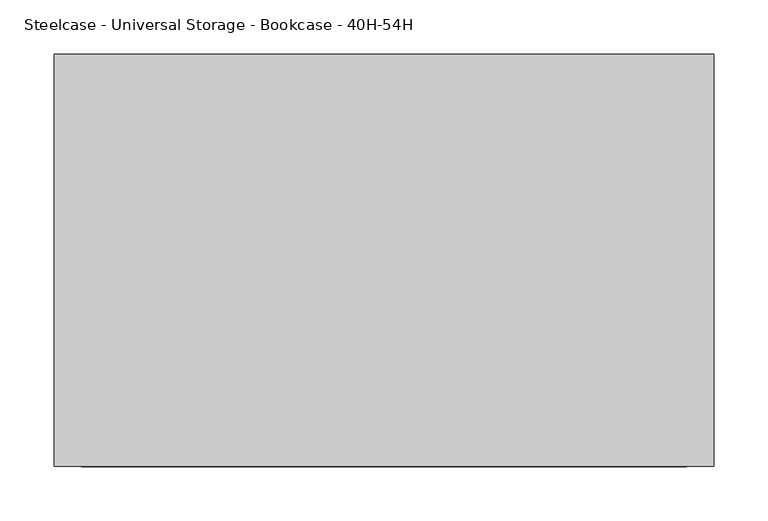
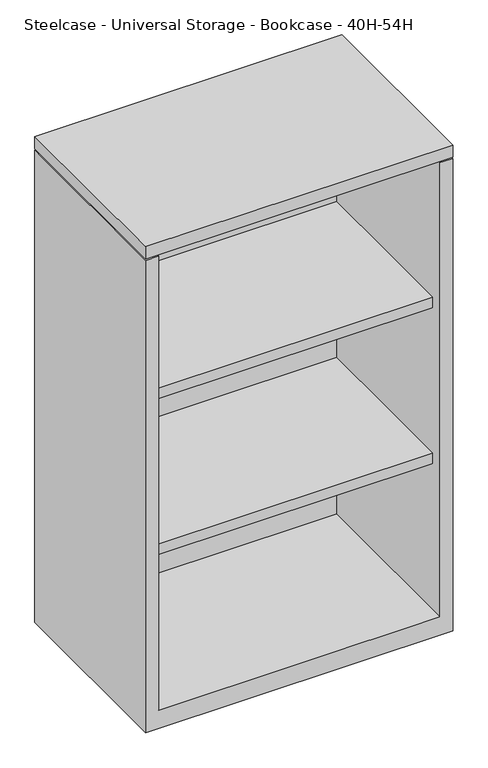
"""IFC4 building model written with IfcOpenShell, lengths in millimetres: furniture geometry, Steelcase - Universal Storage - Bookcase - 40H-54H : 40H x 24W."""

import ifcopenshell
import ifcopenshell.guid

model = None  # the IFC model being written
_history = None  # IfcOwnerHistory: only IFC2X3 demands one
_inside = {}  # id of a spatial element -> (the spatial element, [elements in it])
_under = {}  # id of a project, library or spatial element -> (it, [spatial elements below it])
_declared = {}  # id of a project -> (the project, [libraries it declares])
_typed = {}  # id of a type object -> (the type object, [elements of that type])
_made_of = {}  # id of a material, layer set ... -> (it, [elements and type objects made of it])


def new_model(schema):
    """Start an empty IFC model of exactly this schema.

    Asked for "IFC4X3", IfcOpenShell would pick the latest addendum, in which some entities
    have other attributes; the version numbers below select the first issue.
    IFC2X3 requires an IfcOwnerHistory on every rooted entity: one is made here for all.
    """
    global model, _history
    if schema == "IFC4X3":
        model = ifcopenshell.file(schema_version=(4, 3, 0, 0))
    else:
        model = ifcopenshell.file(schema=schema)
    _inside.clear()
    _under.clear()
    _declared.clear()
    _typed.clear()
    _made_of.clear()
    _history = None
    if model.schema == "IFC2X3":
        org = make("IfcOrganization", Name="unknown")
        user = make(
            "IfcPersonAndOrganization",
            ThePerson=make("IfcPerson", FamilyName="unknown"),
            TheOrganization=org,
        )
        app = make(
            "IfcApplication",
            ApplicationDeveloper=org,
            Version="unknown",
            ApplicationFullName="unknown",
            ApplicationIdentifier="unknown",
        )
        _history = make(
            "IfcOwnerHistory",
            OwningUser=user,
            OwningApplication=app,
            ChangeAction="ADDED",
            CreationDate=0,
        )
    return model


def make(cls, **values):
    """One entity of the class cls with the attributes given. An attribute that is None is left unset."""
    return model.create_entity(
        cls, **{name: value for name, value in values.items() if value is not None}
    )


def rooted(cls, **values):
    """An entity with a GlobalId (a new one), such as an element, a storey or a relation."""
    return make(cls, GlobalId=ifcopenshell.guid.new(), OwnerHistory=_history, **values)


def si_unit(unit_type, name, prefix=None):
    """IfcSIUnit, for example si_unit("LENGTHUNIT", "METRE", prefix="MILLI")."""
    return make("IfcSIUnit", UnitType=unit_type, Prefix=prefix, Name=name)


def assignment(units):
    """IfcUnitAssignment: the units of a project."""
    return None if units is None else make("IfcUnitAssignment", Units=units)


def point(xyz):
    """IfcCartesianPoint."""
    return None if xyz is None else make("IfcCartesianPoint", Coordinates=xyz)


def direction(xyz):
    """IfcDirection."""
    return None if xyz is None else make("IfcDirection", DirectionRatios=xyz)


def frame(location, z_axis=None, x_axis=None):
    """IfcAxis2Placement3D, a coordinate frame: its origin and axes. An axis left out is left unset."""
    return make(
        "IfcAxis2Placement3D",
        Location=point(location),
        Axis=direction(z_axis),
        RefDirection=direction(x_axis),
    )


def origin():
    """The frame at (0, 0, 0) with its axes left unset."""
    return frame((0.0, 0.0, 0.0))


def place(relative_to, where):
    """IfcLocalPlacement: puts the frame where relative to a parent placement (None: the world)."""
    return make(
        "IfcLocalPlacement", PlacementRelTo=relative_to, RelativePlacement=where
    )


def context(
    kind, dimensions, precision=None, world=None, true_north=None, identifier=None
):
    """IfcGeometricRepresentationContext, for example the 3D "Model" context."""
    return make(
        "IfcGeometricRepresentationContext",
        ContextIdentifier=identifier,
        ContextType=kind,
        CoordinateSpaceDimension=dimensions,
        Precision=precision,
        WorldCoordinateSystem=world,
        TrueNorth=true_north,
    )


def project(units=None, contexts=None):
    """IfcProject with its units and contexts."""
    return rooted(
        "IfcProject",
        Name="project",
        RepresentationContexts=contexts,
        UnitsInContext=assignment(units),
    )


def spatial(cls, under=None, at=None, **own):
    """A site, building, storey or space (cls), placed at a placement, below another one or the project."""
    s = rooted(cls, ObjectPlacement=at, **own)
    if under is not None:
        _under.setdefault(under.id(), (under, []))[1].append(s)
    return s


def polyline(points):
    """IfcPolyline through the points."""
    return make("IfcPolyline", Points=[point(p) for p in points])


def outline(outer, holes=None, kind="AREA"):
    """IfcArbitraryClosedProfileDef: a profile drawn as a closed curve; with holes, ...WithVoids."""
    if holes is None:
        return make("IfcArbitraryClosedProfileDef", ProfileType=kind, OuterCurve=outer)
    return make(
        "IfcArbitraryProfileDefWithVoids",
        ProfileType=kind,
        OuterCurve=outer,
        InnerCurves=holes,
    )


def extrude(swept, where, along, depth):
    """IfcExtrudedAreaSolid: the profile swept, set in the frame where, extruded along a direction by depth."""
    return make(
        "IfcExtrudedAreaSolid",
        SweptArea=swept,
        Position=where,
        ExtrudedDirection=direction(along),
        Depth=depth,
    )


def faces_of(points, faces, orient=None, outer=None):
    """IfcFace entities. A face is a list of loops; a loop is a list of indices into points, from 0.

    orient and outer hold one flag for each loop. By default every Orientation is true, the
    first loop of a face is its IfcFaceOuterBound and the others are IfcFaceBound.
    """
    made = []
    for i, loops in enumerate(faces):
        bounds = []
        for j, loop in enumerate(loops):
            is_outer = j == 0 if outer is None else outer[i][j]
            bounds.append(
                make(
                    "IfcFaceOuterBound" if is_outer else "IfcFaceBound",
                    Bound=make("IfcPolyLoop", Polygon=[points[k] for k in loop]),
                    Orientation=True if orient is None else orient[i][j],
                )
            )
        made.append(make("IfcFace", Bounds=bounds))
    return made


def faceted_brep(points, faces, orient=None, outer=None, voids=None):
    """IfcFacetedBrep: a solid bounded by flat faces; with voids (closed shells), ...WithVoids."""
    shared = [point(p) for p in points]
    hull = make("IfcClosedShell", CfsFaces=faces_of(shared, faces, orient, outer))
    if voids is None:
        return make("IfcFacetedBrep", Outer=hull)
    return make(
        "IfcFacetedBrepWithVoids",
        Outer=hull,
        Voids=[
            make(cls, CfsFaces=faces_of(shared, fs, o, b)) for cls, fs, o, b in voids
        ],
    )


def shape(context_of_items, identifier, shape_type, items):
    """IfcShapeRepresentation: the items that make up one representation, for example the "Body"."""
    return make(
        "IfcShapeRepresentation",
        ContextOfItems=context_of_items,
        RepresentationIdentifier=identifier,
        RepresentationType=shape_type,
        Items=items,
    )


def source(mapping_origin, context_of_items, identifier, shape_type, items):
    """IfcRepresentationMap: a shape defined once, which mapped items show again and again."""
    return make(
        "IfcRepresentationMap",
        MappingOrigin=mapping_origin,
        MappedRepresentation=shape(context_of_items, identifier, shape_type, items),
    )


def transform(
    local_origin,
    x_axis=None,
    y_axis=None,
    z_axis=None,
    scale=None,
    scale2=None,
    scale3=None,
    uniform=True,
):
    """IfcCartesianTransformationOperator3D, or its non-uniform kind. x_axis, y_axis, z_axis: its Axis1, 2, 3."""
    if uniform:
        return make(
            "IfcCartesianTransformationOperator3D",
            Axis1=direction(x_axis),
            Axis2=direction(y_axis),
            LocalOrigin=point(local_origin),
            Scale=scale,
            Axis3=direction(z_axis),
        )
    return make(
        "IfcCartesianTransformationOperator3DnonUniform",
        Axis1=direction(x_axis),
        Axis2=direction(y_axis),
        LocalOrigin=point(local_origin),
        Scale=scale,
        Axis3=direction(z_axis),
        Scale2=scale2,
        Scale3=scale3,
    )


def mapped(mapping_source, mapping_target):
    """IfcMappedItem: shows the shape of a source again, moved by a transform."""
    return make(
        "IfcMappedItem", MappingSource=mapping_source, MappingTarget=mapping_target
    )


def made_of(thing, what):
    """Note that an element or type object is made of a material, layer set ...; save() writes the relation."""
    if what is not None:
        _made_of.setdefault(what.id(), (what, []))[1].append(thing)
    return thing


def element(
    cls,
    number,
    at=None,
    inside=None,
    cuts=None,
    type_object=None,
    material=None,
    context=None,
    identifier="Body",
    shape_type=None,
    held_by="IfcProductDefinitionShape",
    body=None,
    shapes=None,
    **own,
):
    """One element of the class cls, such as IfcWall. Its Tag is "e" and its number.

    at: its placement. inside: the storey or other place that contains it. cuts: it is an
    opening in that element (IfcRelVoidsElement). A single representation is given by context,
    identifier, shape_type and body (its items); several are given by shapes. held_by: the class
    of the entity that holds the representations. save() writes the other relations.
    """
    e = rooted(cls, Tag="e%d" % number, ObjectPlacement=at, **own)
    if body is not None:
        shapes = [shape(context, identifier, shape_type, body)]
    if shapes is not None:
        e.Representation = make(held_by, Representations=shapes)
    if inside is not None:
        _inside.setdefault(inside.id(), (inside, []))[1].append(e)
    if cuts is not None:
        rooted(
            "IfcRelVoidsElement", RelatingBuildingElement=cuts, RelatedOpeningElement=e
        )
    if type_object is not None:
        _typed.setdefault(type_object.id(), (type_object, []))[1].append(e)
    return made_of(e, material)


def aggregate(whole, parts):
    """IfcRelAggregates: a whole, such as a stair, and the parts it consists of."""
    return rooted("IfcRelAggregates", RelatingObject=whole, RelatedObjects=parts)


def save(model, path):
    """Write the relations noted so far, then the file.

    IfcRelAggregates (storeys below a building ...), IfcRelContainedInSpatialStructure (elements
    in a storey), IfcRelDefinesByType, IfcRelAssociatesMaterial and IfcRelDeclares: one each for
    every whole, place, type object, material and project.
    """
    for whole, parts in _under.values():
        aggregate(whole, parts)
    for where, things in _inside.values():
        rooted(
            "IfcRelContainedInSpatialStructure",
            RelatedElements=things,
            RelatingStructure=where,
        )
    for kind, things in _typed.values():
        rooted("IfcRelDefinesByType", RelatedObjects=things, RelatingType=kind)
    for what, things in _made_of.values():
        rooted("IfcRelAssociatesMaterial", RelatedObjects=things, RelatingMaterial=what)
    for by, libraries in _declared.values():
        rooted("IfcRelDeclares", RelatingContext=by, RelatedDefinitions=libraries)
    model.write(path)


def steelcase_universal_storage_bookcase_40h_54h_a51315cc(model_context):
    return source(origin(), model_context, "Body", "SolidModel", [
        extrude(outline(polyline([(609.6, -98.552), (609.6, -479.552), (0.0, -479.552), (0.0, -98.552), (609.6, -98.552)])), frame((0.0, 0.0, 993.6479031), z_axis=(0.0, 0.0, 1.0), x_axis=(1.0, 0.0, 0.0)), (0.0, 0.0, 1.0), 25.4000484),
        extrude(outline(polyline([(584.2000242, -123.9520008), (584.2000242, -454.0250121), (25.4000008, -454.0250121), (25.4000008, -123.9520008), (584.2000242, -123.9520008)])), frame((0.0, 0.0, 344.424), z_axis=(0.0, 0.0, 1.0), x_axis=(1.0, 0.0, 0.0)), (0.0, 0.0, 1.0), 22.2249516),
        extrude(outline(polyline([(584.2000242, -123.9520008), (584.2000242, -454.0250121), (25.4000008, -454.0250121), (25.4000008, -123.9520008), (584.2000242, -123.9520008)])), frame((0.0, 0.0, 671.4489516), z_axis=(0.0, 0.0, 1.0), x_axis=(1.0, 0.0, 0.0)), (0.0, 0.0, 1.0), 22.2249516),
        faceted_brep([(25.4000008, -479.552, 38.1), (584.2000242, -479.552, 38.1), (584.2000242, -123.9520008, 38.1), (25.4000008, -123.9520008, 38.1), (609.6, -98.552, 0.0), (609.6, -479.552, 0.0), (0.0, -479.552, 0.0), (0.0, -98.552, 0.0), (0.0, -98.552, 990.6), (609.6, -98.552, 990.6), (0.0, -479.552, 990.6), (609.6, -479.552, 990.6), (584.2000242, -479.552, 990.6), (25.4000008, -479.552, 990.6), (584.2000242, -123.9520008, 990.6), (25.4000008, -123.9520008, 990.6)], [[[0, 1, 2, 3]], [[4, 5, 6, 7]], [[4, 7, 8, 9]], [[8, 7, 6, 10]], [[10, 6, 5, 11, 12, 1, 0, 13]], [[11, 5, 4, 9]], [[14, 12, 11, 9, 8, 10, 13, 15]], [[12, 14, 2, 1]], [[15, 13, 0, 3]], [[14, 15, 3, 2]]]),
    ])


if __name__ == "__main__":
    model = new_model("IFC4")
    model_context = context("Model", 3, world=origin())
    ifc_project = project(units=[si_unit("LENGTHUNIT", "METRE", prefix="MILLI")], contexts=[model_context])
    site = spatial("IfcSite", under=ifc_project)
    building = spatial("IfcBuilding", under=site)
    placement = place(None, origin())
    steelcase_universal_storage_bookcase_40h_54h_shape = steelcase_universal_storage_bookcase_40h_54h_a51315cc(model_context)
    element("IfcFurniture", 1, ObjectType="Steelcase - Universal Storage - Bookcase - 40H-54H : 40H x 24W", at=placement, inside=building, context=model_context, shape_type="MappedRepresentation", body=[
        mapped(steelcase_universal_storage_bookcase_40h_54h_shape, transform((0.0, 0.0, 0.0), x_axis=(1.0, 0.0, 0.0), y_axis=(0.0, 1.0, 0.0), z_axis=(0.0, 0.0, 1.0))),
    ])
    save(model, "model.ifc")
